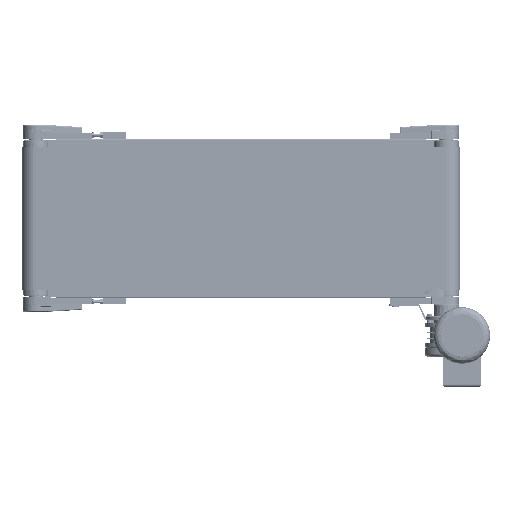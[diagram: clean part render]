
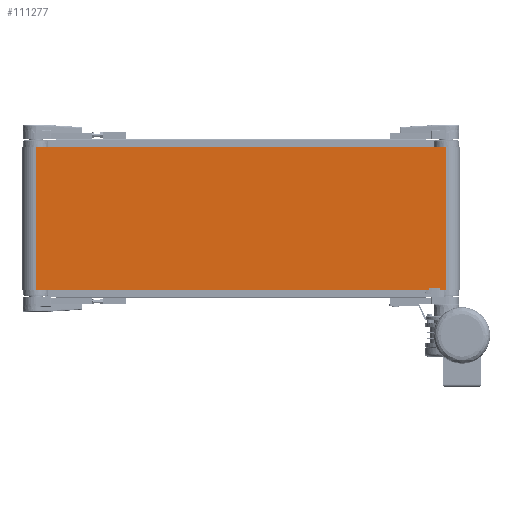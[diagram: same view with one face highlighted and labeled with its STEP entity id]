
A CAD part, front view. The second image highlights one B-rep face of the part: STEP entity #111277.
In plain terms, the highlighted planar face has unit normal (0, -1, 0).
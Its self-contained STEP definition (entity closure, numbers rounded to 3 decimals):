
#3356 = DIRECTION ( 'NONE',  ( 1., 0., 0. ) ) ;
#8136 = ORIENTED_EDGE ( 'NONE', *, *, #38869, .T. ) ;
#13325 = VERTEX_POINT ( 'NONE', #78775 ) ;
#17041 = VERTEX_POINT ( 'NONE', #21324 ) ;
#17747 = DIRECTION ( 'NONE',  ( 1., 0., 0. ) ) ;
#18458 = VECTOR ( 'NONE', #113495, 1000. ) ;
#18730 = LINE ( 'NONE', #65141, #86258 ) ;
#18992 = LINE ( 'NONE', #103075, #18458 ) ;
#21324 = CARTESIAN_POINT ( 'NONE',  ( 400., -27., -140. ) ) ;
#27481 = VECTOR ( 'NONE', #17747, 1000. ) ;
#28959 = VERTEX_POINT ( 'NONE', #42526 ) ;
#35916 = VECTOR ( 'NONE', #36354, 1000. ) ;
#36354 = DIRECTION ( 'NONE',  ( 0., 0., -1. ) ) ;
#37301 = DIRECTION ( 'NONE',  ( 0., 0., 1. ) ) ;
#37716 = CARTESIAN_POINT ( 'NONE',  ( -400., -27., 140. ) ) ;
#38869 = EDGE_CURVE ( 'NONE', #104708, #28959, #78734, .T. ) ;
#38930 = CARTESIAN_POINT ( 'NONE',  ( -400., -27., 140. ) ) ;
#42526 = CARTESIAN_POINT ( 'NONE',  ( -400., -27., -140. ) ) ;
#65141 = CARTESIAN_POINT ( 'NONE',  ( -400., -27., 140. ) ) ;
#68233 = AXIS2_PLACEMENT_3D ( 'NONE', #121400, #77620, #37301 ) ;
#71903 = CARTESIAN_POINT ( 'NONE',  ( -400., -27., -140. ) ) ;
#75785 = EDGE_CURVE ( 'NONE', #104708, #13325, #18730, .T. ) ;
#77620 = DIRECTION ( 'NONE',  ( 0., 1., 0. ) ) ;
#78734 = LINE ( 'NONE', #37716, #35916 ) ;
#78775 = CARTESIAN_POINT ( 'NONE',  ( 400., -27., 140. ) ) ;
#81454 = EDGE_LOOP ( 'NONE', ( #94896, #131362, #109946, #8136 ) ) ;
#86258 = VECTOR ( 'NONE', #3356, 1000. ) ;
#94896 = ORIENTED_EDGE ( 'NONE', *, *, #130693, .T. ) ;
#103075 = CARTESIAN_POINT ( 'NONE',  ( 400., -27., 140. ) ) ;
#104708 = VERTEX_POINT ( 'NONE', #38930 ) ;
#109946 = ORIENTED_EDGE ( 'NONE', *, *, #75785, .F. ) ;
#111277 = ADVANCED_FACE ( 'NONE', ( #120025 ), #111656, .F. ) ;
#111656 = PLANE ( 'NONE',  #68233 ) ;
#112923 = LINE ( 'NONE', #71903, #27481 ) ;
#113495 = DIRECTION ( 'NONE',  ( 0., 0., -1. ) ) ;
#119354 = EDGE_CURVE ( 'NONE', #13325, #17041, #18992, .T. ) ;
#120025 = FACE_OUTER_BOUND ( 'NONE', #81454, .T. ) ;
#121400 = CARTESIAN_POINT ( 'NONE',  ( -400., -27., 140. ) ) ;
#130693 = EDGE_CURVE ( 'NONE', #28959, #17041, #112923, .T. ) ;
#131362 = ORIENTED_EDGE ( 'NONE', *, *, #119354, .F. ) ;
